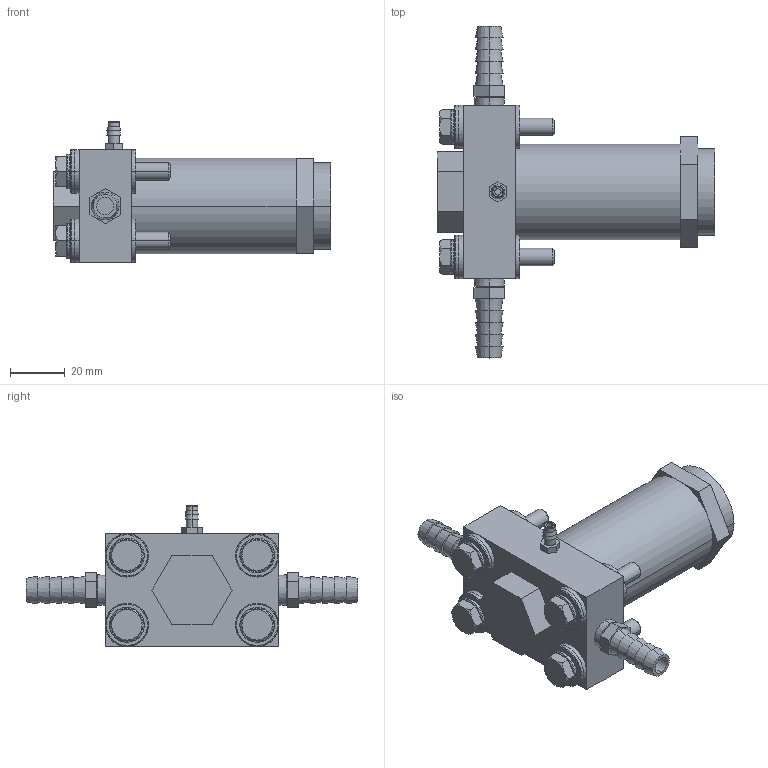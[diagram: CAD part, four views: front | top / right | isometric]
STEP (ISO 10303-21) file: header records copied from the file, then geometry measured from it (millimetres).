
FILE_DESCRIPTION((''),'2;1');
FILE_NAME('XK3_ASM','2017-08-24T',('jennifer.elliott'),('CenterLine (Windsor) Ltd - Automation Components Division'),'PRO/ENGINEER BY PARAMETRIC TECHNOLOGY CORPORATION, 2015030','PRO/ENGINEER BY PARAMETRIC TECHNOLOGY CORPORATION, 2015030','');
FILE_SCHEMA(('AUTOMOTIVE_DESIGN { 1 0 10303 214 1 1 1 1 }'));
Length unit declared in the file: inch
Products named in the file (30): PRT1421; PRT1422; PRT1423; PRT1424; PRT1425; PRT1426; PRT1427; PRT1428; PRT1429; PRT1430; PRT1431; PRT1432; PRT1433; PRT1434; ASM0016_ASM; PRT1435; PRT1436; PRT1437; PRT1438; PRT1439; PRT1440; PRT1441; PRT1442; PRT1443; PRT1444; PRT1445; PRT1446; PRT1447; PRT1448; XK3_ASM
Assembly tree (29 placements, depth 3):
  XK3_ASM
    PRT1421
    PRT1422
    PRT1423
    PRT1424
    PRT1425
    PRT1426
    PRT1427
    PRT1428
    PRT1429
    PRT1430
    ASM0016_ASM
      PRT1431
      PRT1432
      PRT1433
      PRT1434
    PRT1435
    PRT1436
    PRT1437
    PRT1438
    PRT1439
    PRT1440
    PRT1441
    PRT1442
    PRT1443
    PRT1444
    PRT1445
    PRT1446
    PRT1447
    PRT1448
Bounding box: 101.6 x 121.41 x 51.59 mm (x, y, z)
Volume: 135632.6 mm3; surface area: 44115.3 mm2
Topology: 28 solids, 28 shells, 321 faces, 706 edges, 462 vertices
Faces by surface type: plane 147, cylinder 86, cone 60, torus 28
Entity records: 11185 total; most frequent: CARTESIAN_POINT 2089, DIRECTION 1720, ORIENTED_EDGE 1412, AXIS2_PLACEMENT_3D 718, EDGE_CURVE 706, VERTEX_POINT 462, EDGE_LOOP 372, CIRCLE 334
